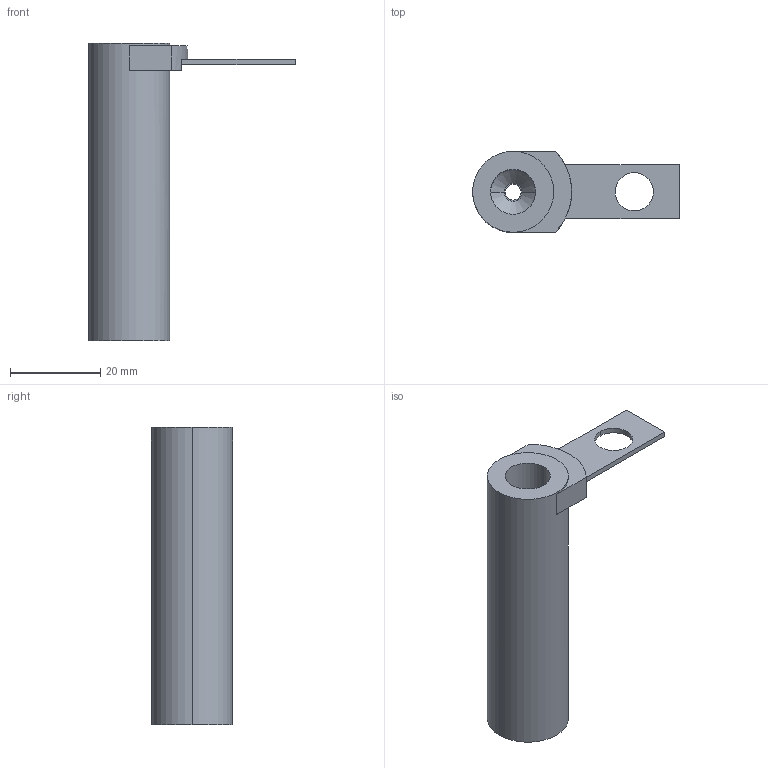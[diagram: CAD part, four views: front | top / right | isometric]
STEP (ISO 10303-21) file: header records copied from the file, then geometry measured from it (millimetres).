
FILE_DESCRIPTION(/* description */ (''),/* implementation_level */ '2;1');
FILE_NAME(/* name */ '3d_tus10-66a_06252_r00.stp',/* time_stamp */ '2011-01-10T14:08:55+09:00',/* author */ ('MISUMI'),/* organization */ (''),/* preprocessor_version */ 'ST-DEVELOPER v11',/* originating_system */ 'UGS - NX 5.0',/* authorisation */ '');
FILE_SCHEMA (('CONFIG_CONTROL_DESIGN'));
Length unit declared in the file: millimetre
Products named in the file (1): 3d_tus10-66a_06252_r00
Bounding box: 45.92 x 18 x 66 mm (x, y, z)
Volume: 12813.9 mm3; surface area: 7034.9 mm2
Topology: 2 solids, 2 shells, 28 faces, 67 edges, 44 vertices
Faces by surface type: plane 17, cylinder 9, cone 2
Entity records: 915 total; most frequent: DIRECTION 153, CARTESIAN_POINT 140, ORIENTED_EDGE 134, EDGE_CURVE 67, AXIS2_PLACEMENT_3D 57, VERTEX_POINT 44, LINE 39, VECTOR 39
